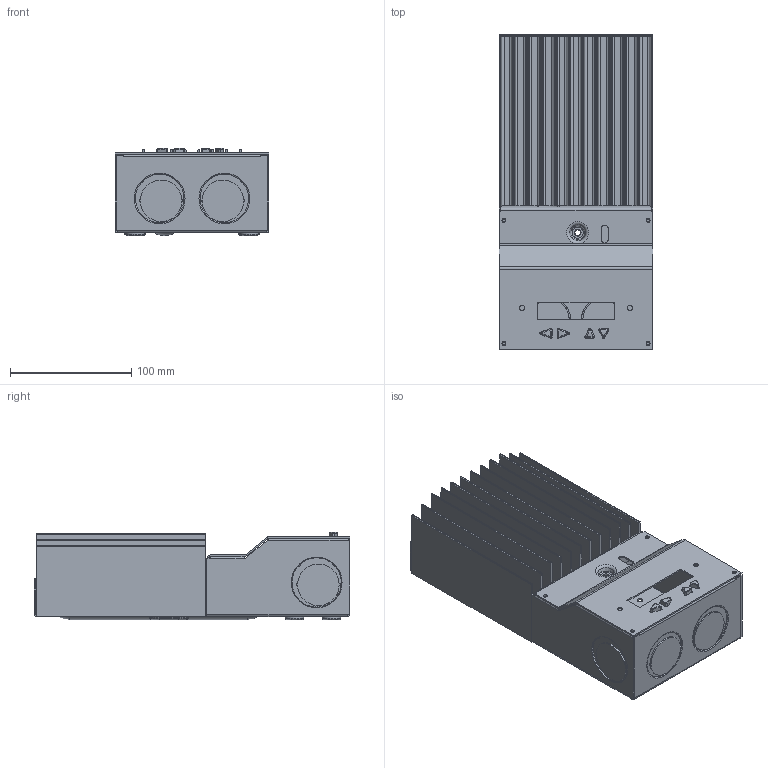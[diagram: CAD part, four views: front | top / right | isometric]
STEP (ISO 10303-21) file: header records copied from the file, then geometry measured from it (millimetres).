
FILE_DESCRIPTION(/* description */ ('Unknown'),/* implementation_level */ '2;1');
FILE_NAME(/* name */ 'TSPWM_public',/* time_stamp */ '2017-02-27T11:38:13-05:00',/* author */ ('Unknown'),/* organization */ ('Unknown'),/* preprocessor_version */ 'ST-DEVELOPER v16.7',/* originating_system */ 'DEX',/* authorisation */ $);
FILE_SCHEMA (('AP242_MANAGED_MODEL_BASED_3D_ENGINEERING_MIM_LF { 1 0 10303 442 1 1 4 }','AUTOMOTIVE_DESIGN {1 0 10303 214 3 1 1}'));
Length unit declared in the file: millimetre
Products named in the file (1): TSPWM_public
Bounding box: 127 x 260.35 x 72.01 mm (x, y, z)
Volume: 784785.8 mm3; surface area: 319812.3 mm2
Topology: 3 solids, 11 shells, 718 faces, 1987 edges, 1300 vertices
Faces by surface type: plane 365, cylinder 263, torus 44, bspline 24, sphere 12, cone 10
Full cylindrical faces by diameter (mm): 2.489 x4, 2.54 x36, 3.302 x4, 4.216 x2, 4.75 x3, 5.334 x4, 5.588 x1, 5.994 x1, 10.16 x1, 11.176 x1, 12.7 x4, 15.24 x4, 31.75 x4, 34.29 x2
Entity records: 22754 total; most frequent: CARTESIAN_POINT 4395, DIRECTION 3904, ORIENTED_EDGE 3588, EDGE_CURVE 1818, AXIS2_PLACEMENT_3D 1425, VERTEX_POINT 1234, LINE 1054, VECTOR 1054
